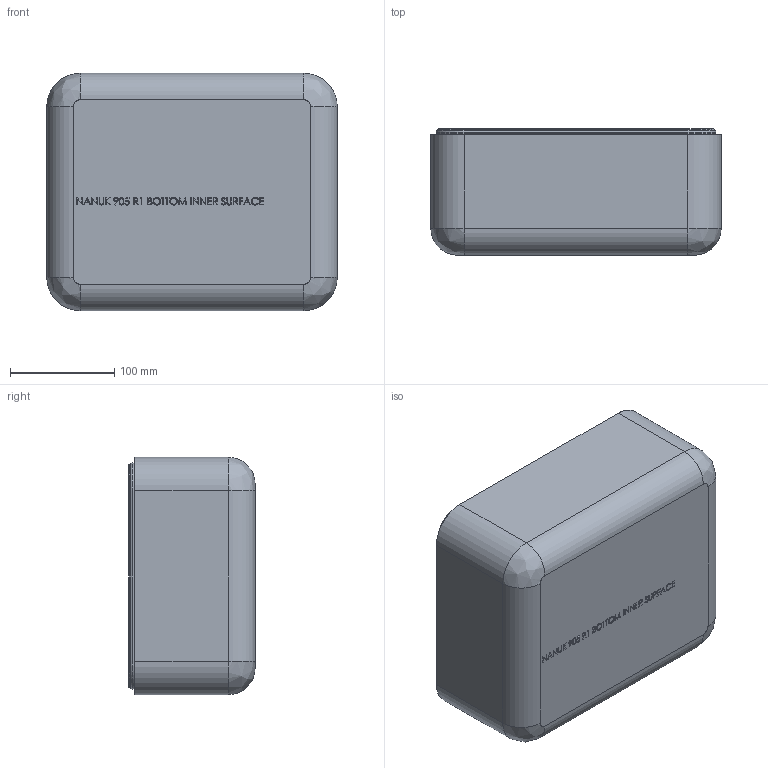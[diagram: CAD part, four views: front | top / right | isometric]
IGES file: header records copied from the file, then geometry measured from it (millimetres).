
Start section: SolidWorks IGES file using analytic representation for surfaces
Global section: file name: M:\NANUK\Solidworks\3D\Cases\905\NEW DESIGN R1\4 - 3D FILES\5 - INNER SURFACE\905_R1_Btm_INNER_SURFACE_IGES.IGS; native system: SolidWorks 2022; preprocessor: SolidWorks 2022; author: dbrousseau; date: 260211.094148; units: inch
Bounding box: 278.14 x 120.9 x 227.34 mm (x, y, z)
Surface area: 314000.7 mm2 (no closed solid volume)
Topology: 0 solids, 0 shells, 1022 faces, 11542 edges, 11529 vertices
Faces by surface type: bspline 838, revolution 184
